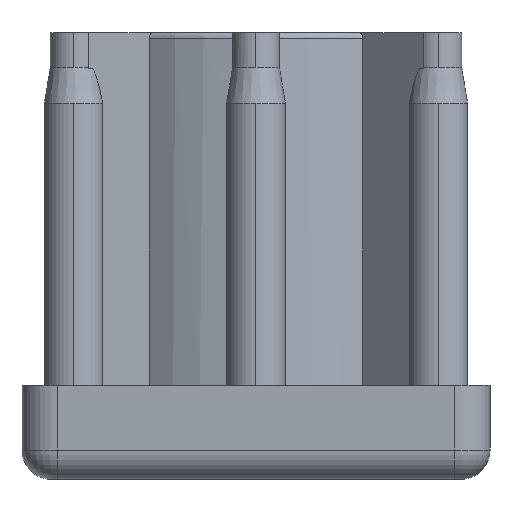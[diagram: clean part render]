
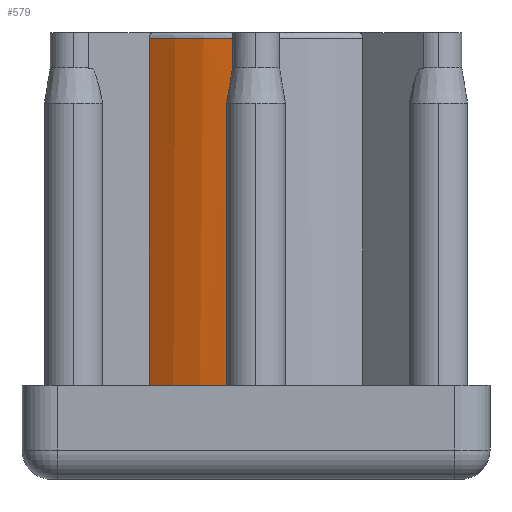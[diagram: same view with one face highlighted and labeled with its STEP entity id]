
A CAD part, left-side view. The second image highlights one B-rep face of the part: STEP entity #579.
In plain terms, the highlighted cylindrical face has radius 15 mm (diameter 30 mm), a partial arc.
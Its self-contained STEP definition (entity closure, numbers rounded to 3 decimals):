
#68 = CARTESIAN_POINT ( 'NONE',  ( -14.806, 2.402, 0. ) ) ;
#110 = AXIS2_PLACEMENT_3D ( 'NONE', #352, #662, #2558 ) ;
#114 = CARTESIAN_POINT ( 'NONE',  ( -14.879, 1.899, 27. ) ) ;
#133 = ORIENTED_EDGE ( 'NONE', *, *, #2527, .F. ) ;
#210 = DIRECTION ( 'NONE',  ( 1., 0., 0. ) ) ;
#352 = CARTESIAN_POINT ( 'NONE',  ( 0., 0., 30. ) ) ;
#507 = CARTESIAN_POINT ( 'NONE',  ( 0., 0., 29.5 ) ) ;
#542 = VECTOR ( 'NONE', #3389, 1000. ) ;
#579 = ADVANCED_FACE ( 'NONE', ( #1400 ), #2620, .T. ) ;
#625 = VERTEX_POINT ( 'NONE', #68 ) ;
#642 = VERTEX_POINT ( 'NONE', #3795 ) ;
#662 = DIRECTION ( 'NONE',  ( 0., 0., -1. ) ) ;
#672 = DIRECTION ( 'NONE',  ( 0., 0., 1. ) ) ;
#681 = LINE ( 'NONE', #2225, #3090 ) ;
#766 = CIRCLE ( 'NONE', #3125, 15. ) ;
#772 = CARTESIAN_POINT ( 'NONE',  ( 0., 0., 0. ) ) ;
#775 = EDGE_CURVE ( 'NONE', #1581, #625, #766, .T. ) ;
#787 = ORIENTED_EDGE ( 'NONE', *, *, #775, .T. ) ;
#822 = EDGE_CURVE ( 'NONE', #982, #642, #2713, .T. ) ;
#890 = ORIENTED_EDGE ( 'NONE', *, *, #822, .F. ) ;
#912 = CARTESIAN_POINT ( 'NONE',  ( -11.926, 9.098, 0. ) ) ;
#982 = VERTEX_POINT ( 'NONE', #2429 ) ;
#1045 = VECTOR ( 'NONE', #1987, 1000. ) ;
#1340 = CARTESIAN_POINT ( 'NONE',  ( -14.879, 1.899, 29.5 ) ) ;
#1400 = FACE_OUTER_BOUND ( 'NONE', #3165, .T. ) ;
#1407 = VERTEX_POINT ( 'NONE', #3556 ) ;
#1538 = LINE ( 'NONE', #2322, #1045 ) ;
#1563 = AXIS2_PLACEMENT_3D ( 'NONE', #507, #3007, #210 ) ;
#1581 = VERTEX_POINT ( 'NONE', #912 ) ;
#1594 = LINE ( 'NONE', #3035, #542 ) ;
#1803 = ORIENTED_EDGE ( 'NONE', *, *, #3205, .F. ) ;
#1864 = ORIENTED_EDGE ( 'NONE', *, *, #2891, .T. ) ;
#1987 = DIRECTION ( 'NONE',  ( 0., 0., -1. ) ) ;
#2015 = CARTESIAN_POINT ( 'NONE',  ( -14.806, 2.402, 24. ) ) ;
#2074 = CIRCLE ( 'NONE', #1563, 15. ) ;
#2225 = CARTESIAN_POINT ( 'NONE',  ( -11.926, 9.098, 30. ) ) ;
#2322 = CARTESIAN_POINT ( 'NONE',  ( -14.879, 1.899, 28.5 ) ) ;
#2345 = DIRECTION ( 'NONE',  ( 1., 0., 0. ) ) ;
#2372 = VERTEX_POINT ( 'NONE', #1340 ) ;
#2429 = CARTESIAN_POINT ( 'NONE',  ( -14.879, 1.899, 27. ) ) ;
#2527 = EDGE_CURVE ( 'NONE', #642, #625, #1594, .T. ) ;
#2558 = DIRECTION ( 'NONE',  ( -1., 0., 0. ) ) ;
#2620 = CYLINDRICAL_SURFACE ( 'NONE', #110, 15. ) ;
#2713 = B_SPLINE_CURVE_WITH_KNOTS ( 'NONE', 3,
 ( #114, #3255, #3859, #2015 ),
 .UNSPECIFIED., .F., .F.,
 ( 4, 4 ),
 ( 0., 1. ),
 .UNSPECIFIED. ) ;
#2891 = EDGE_CURVE ( 'NONE', #2372, #1407, #2074, .T. ) ;
#3007 = DIRECTION ( 'NONE',  ( 0., 0., -1. ) ) ;
#3020 = ORIENTED_EDGE ( 'NONE', *, *, #3740, .F. ) ;
#3035 = CARTESIAN_POINT ( 'NONE',  ( -14.806, 2.402, 12. ) ) ;
#3090 = VECTOR ( 'NONE', #672, 1000. ) ;
#3125 = AXIS2_PLACEMENT_3D ( 'NONE', #772, #3834, #2345 ) ;
#3165 = EDGE_LOOP ( 'NONE', ( #1803, #1864, #3020, #787, #133, #890 ) ) ;
#3205 = EDGE_CURVE ( 'NONE', #2372, #982, #1538, .T. ) ;
#3255 = CARTESIAN_POINT ( 'NONE',  ( -14.858, 2.068, 26. ) ) ;
#3389 = DIRECTION ( 'NONE',  ( 0., 0., -1. ) ) ;
#3556 = CARTESIAN_POINT ( 'NONE',  ( -11.926, 9.098, 29.5 ) ) ;
#3740 = EDGE_CURVE ( 'NONE', #1581, #1407, #681, .T. ) ;
#3795 = CARTESIAN_POINT ( 'NONE',  ( -14.806, 2.402, 24. ) ) ;
#3834 = DIRECTION ( 'NONE',  ( 0., 0., 1. ) ) ;
#3859 = CARTESIAN_POINT ( 'NONE',  ( -14.833, 2.235, 25. ) ) ;
